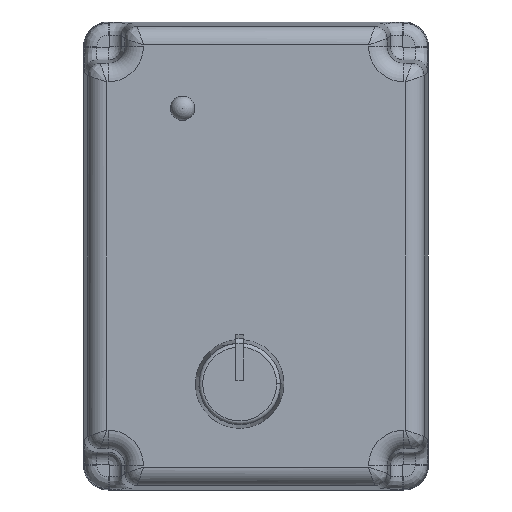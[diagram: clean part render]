
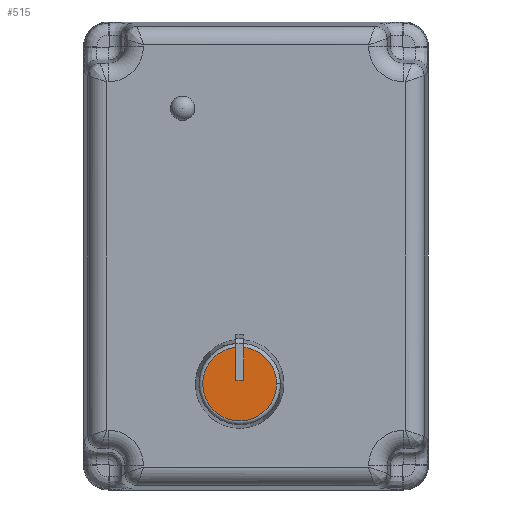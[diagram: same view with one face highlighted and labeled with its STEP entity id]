
A CAD part, front view. The second image highlights one B-rep face of the part: STEP entity #515.
In plain terms, the highlighted planar face has unit normal (0, -1, 0).
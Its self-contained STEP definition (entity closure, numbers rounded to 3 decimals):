
#32 = PLANE('',#33);
#33 = AXIS2_PLACEMENT_3D('',#34,#35,#36);
#34 = CARTESIAN_POINT('',(-1.6,-11.455,-10.144
    ));
#35 = DIRECTION('',(1.,0.,0.));
#36 = DIRECTION('',(0.,0.,-1.));
#57 = VERTEX_POINT('',#58);
#58 = CARTESIAN_POINT('',(-1.6,-25.171,-16.011
    ));
#72 = PLANE('',#73);
#73 = AXIS2_PLACEMENT_3D('',#74,#75,#76);
#74 = CARTESIAN_POINT('',(-1.6,-11.455,-16.011
    ));
#75 = DIRECTION('',(0.,0.,-1.));
#76 = DIRECTION('',(-1.,0.,0.));
#84 = EDGE_CURVE('',#57,#85,#87,.T.);
#85 = VERTEX_POINT('',#86);
#86 = CARTESIAN_POINT('',(-1.6,-25.171,-11.768
    ));
#87 = SURFACE_CURVE('',#88,(#92,#99),.PCURVE_S1.);
#88 = LINE('',#89,#90);
#89 = CARTESIAN_POINT('',(-1.6,-25.171,-13.319
    ));
#90 = VECTOR('',#91,1.);
#91 = DIRECTION('',(0.,0.,1.));
#92 = PCURVE('',#32,#93);
#93 = DEFINITIONAL_REPRESENTATION('',(#94),#98);
#94 = LINE('',#95,#96);
#95 = CARTESIAN_POINT('',(3.175,-13.716));
#96 = VECTOR('',#97,1.);
#97 = DIRECTION('',(-1.,0.));
#98 = ( GEOMETRIC_REPRESENTATION_CONTEXT(2) 
PARAMETRIC_REPRESENTATION_CONTEXT() REPRESENTATION_CONTEXT('2D SPACE',''
  ) );
#99 = PCURVE('',#100,#105);
#100 = PLANE('',#101);
#101 = AXIS2_PLACEMENT_3D('',#102,#103,#104);
#102 = CARTESIAN_POINT('',(-2.108,-25.171,
    -16.494));
#103 = DIRECTION('',(0.,-1.,0.));
#104 = DIRECTION('',(1.,0.,0.));
#105 = DEFINITIONAL_REPRESENTATION('',(#106),#110);
#106 = LINE('',#107,#108);
#107 = CARTESIAN_POINT('',(0.508,3.175));
#108 = VECTOR('',#109,1.);
#109 = DIRECTION('',(0.,1.));
#110 = ( GEOMETRIC_REPRESENTATION_CONTEXT(2) 
PARAMETRIC_REPRESENTATION_CONTEXT() REPRESENTATION_CONTEXT('2D SPACE',''
  ) );
#150 = TOROIDAL_SURFACE('',#151,4.753,0.5);
#151 = AXIS2_PLACEMENT_3D('',#152,#153,#154);
#152 = CARTESIAN_POINT('',(-2.108,-24.671,
    -16.494));
#153 = DIRECTION('',(0.,-1.,0.));
#154 = DIRECTION('',(1.,0.,0.));
#335 = PLANE('',#336);
#336 = AXIS2_PLACEMENT_3D('',#337,#338,#339);
#337 = CARTESIAN_POINT('',(-2.616,-11.455,
    -16.011));
#338 = DIRECTION('',(-1.,0.,0.));
#339 = DIRECTION('',(0.,0.,1.));
#421 = EDGE_CURVE('',#422,#57,#424,.T.);
#422 = VERTEX_POINT('',#423);
#423 = CARTESIAN_POINT('',(-2.616,-25.171,
    -16.011));
#424 = SURFACE_CURVE('',#425,(#429,#436),.PCURVE_S1.);
#425 = LINE('',#426,#427);
#426 = CARTESIAN_POINT('',(-1.854,-25.171,
    -16.011));
#427 = VECTOR('',#428,1.);
#428 = DIRECTION('',(1.,0.,0.));
#429 = PCURVE('',#72,#430);
#430 = DEFINITIONAL_REPRESENTATION('',(#431),#435);
#431 = LINE('',#432,#433);
#432 = CARTESIAN_POINT('',(0.254,-13.716));
#433 = VECTOR('',#434,1.);
#434 = DIRECTION('',(-1.,-0.));
#435 = ( GEOMETRIC_REPRESENTATION_CONTEXT(2) 
PARAMETRIC_REPRESENTATION_CONTEXT() REPRESENTATION_CONTEXT('2D SPACE',''
  ) );
#436 = PCURVE('',#100,#437);
#437 = DEFINITIONAL_REPRESENTATION('',(#438),#442);
#438 = LINE('',#439,#440);
#439 = CARTESIAN_POINT('',(0.254,0.483));
#440 = VECTOR('',#441,1.);
#441 = DIRECTION('',(1.,0.));
#442 = ( GEOMETRIC_REPRESENTATION_CONTEXT(2) 
PARAMETRIC_REPRESENTATION_CONTEXT() REPRESENTATION_CONTEXT('2D SPACE',''
  ) );
#515 = ADVANCED_FACE('',(#516),#100,.T.);
#516 = FACE_BOUND('',#517,.T.);
#517 = EDGE_LOOP('',(#518,#541,#570,#592,#593));
#518 = ORIENTED_EDGE('',*,*,#519,.F.);
#519 = EDGE_CURVE('',#520,#422,#522,.T.);
#520 = VERTEX_POINT('',#521);
#521 = CARTESIAN_POINT('',(-2.616,-25.171,
    -11.768));
#522 = SURFACE_CURVE('',#523,(#527,#534),.PCURVE_S1.);
#523 = LINE('',#524,#525);
#524 = CARTESIAN_POINT('',(-2.616,-25.171,
    -16.252));
#525 = VECTOR('',#526,1.);
#526 = DIRECTION('',(0.,0.,-1.));
#527 = PCURVE('',#100,#528);
#528 = DEFINITIONAL_REPRESENTATION('',(#529),#533);
#529 = LINE('',#530,#531);
#530 = CARTESIAN_POINT('',(-0.508,0.241));
#531 = VECTOR('',#532,1.);
#532 = DIRECTION('',(0.,-1.));
#533 = ( GEOMETRIC_REPRESENTATION_CONTEXT(2) 
PARAMETRIC_REPRESENTATION_CONTEXT() REPRESENTATION_CONTEXT('2D SPACE',''
  ) );
#534 = PCURVE('',#335,#535);
#535 = DEFINITIONAL_REPRESENTATION('',(#536),#540);
#536 = LINE('',#537,#538);
#537 = CARTESIAN_POINT('',(-0.241,-13.716));
#538 = VECTOR('',#539,1.);
#539 = DIRECTION('',(-1.,0.));
#540 = ( GEOMETRIC_REPRESENTATION_CONTEXT(2) 
PARAMETRIC_REPRESENTATION_CONTEXT() REPRESENTATION_CONTEXT('2D SPACE',''
  ) );
#541 = ORIENTED_EDGE('',*,*,#542,.T.);
#542 = EDGE_CURVE('',#520,#543,#545,.T.);
#543 = VERTEX_POINT('',#544);
#544 = CARTESIAN_POINT('',(2.645,-25.171,
    -16.494));
#545 = SURFACE_CURVE('',#546,(#551,#558),.PCURVE_S1.);
#546 = CIRCLE('',#547,4.753);
#547 = AXIS2_PLACEMENT_3D('',#548,#549,#550);
#548 = CARTESIAN_POINT('',(-2.108,-25.171,
    -16.494));
#549 = DIRECTION('',(0.,-1.,0.));
#550 = DIRECTION('',(-0.097,0.,
    0.995));
#551 = PCURVE('',#100,#552);
#552 = DEFINITIONAL_REPRESENTATION('',(#553),#557);
#553 = CIRCLE('',#554,4.753);
#554 = AXIS2_PLACEMENT_2D('',#555,#556);
#555 = CARTESIAN_POINT('',(0.,0.));
#556 = DIRECTION('',(-0.097,0.995));
#557 = ( GEOMETRIC_REPRESENTATION_CONTEXT(2) 
PARAMETRIC_REPRESENTATION_CONTEXT() REPRESENTATION_CONTEXT('2D SPACE',''
  ) );
#558 = PCURVE('',#559,#564);
#559 = TOROIDAL_SURFACE('',#560,4.753,0.5);
#560 = AXIS2_PLACEMENT_3D('',#561,#562,#563);
#561 = CARTESIAN_POINT('',(-2.108,-24.671,
    -16.494));
#562 = DIRECTION('',(0.,-1.,0.));
#563 = DIRECTION('',(-0.097,0.,
    0.995));
#564 = DEFINITIONAL_REPRESENTATION('',(#565),#569);
#565 = LINE('',#566,#567);
#566 = CARTESIAN_POINT('',(0.,1.571));
#567 = VECTOR('',#568,1.);
#568 = DIRECTION('',(1.,0.));
#569 = ( GEOMETRIC_REPRESENTATION_CONTEXT(2) 
PARAMETRIC_REPRESENTATION_CONTEXT() REPRESENTATION_CONTEXT('2D SPACE',''
  ) );
#570 = ORIENTED_EDGE('',*,*,#571,.T.);
#571 = EDGE_CURVE('',#543,#85,#572,.T.);
#572 = SURFACE_CURVE('',#573,(#578,#585),.PCURVE_S1.);
#573 = CIRCLE('',#574,4.753);
#574 = AXIS2_PLACEMENT_3D('',#575,#576,#577);
#575 = CARTESIAN_POINT('',(-2.108,-25.171,
    -16.494));
#576 = DIRECTION('',(0.,-1.,0.));
#577 = DIRECTION('',(1.,0.,0.));
#578 = PCURVE('',#100,#579);
#579 = DEFINITIONAL_REPRESENTATION('',(#580),#584);
#580 = CIRCLE('',#581,4.753);
#581 = AXIS2_PLACEMENT_2D('',#582,#583);
#582 = CARTESIAN_POINT('',(0.,0.));
#583 = DIRECTION('',(1.,0.));
#584 = ( GEOMETRIC_REPRESENTATION_CONTEXT(2) 
PARAMETRIC_REPRESENTATION_CONTEXT() REPRESENTATION_CONTEXT('2D SPACE',''
  ) );
#585 = PCURVE('',#150,#586);
#586 = DEFINITIONAL_REPRESENTATION('',(#587),#591);
#587 = LINE('',#588,#589);
#588 = CARTESIAN_POINT('',(0.,1.571));
#589 = VECTOR('',#590,1.);
#590 = DIRECTION('',(1.,0.));
#591 = ( GEOMETRIC_REPRESENTATION_CONTEXT(2) 
PARAMETRIC_REPRESENTATION_CONTEXT() REPRESENTATION_CONTEXT('2D SPACE',''
  ) );
#592 = ORIENTED_EDGE('',*,*,#84,.F.);
#593 = ORIENTED_EDGE('',*,*,#421,.F.);
